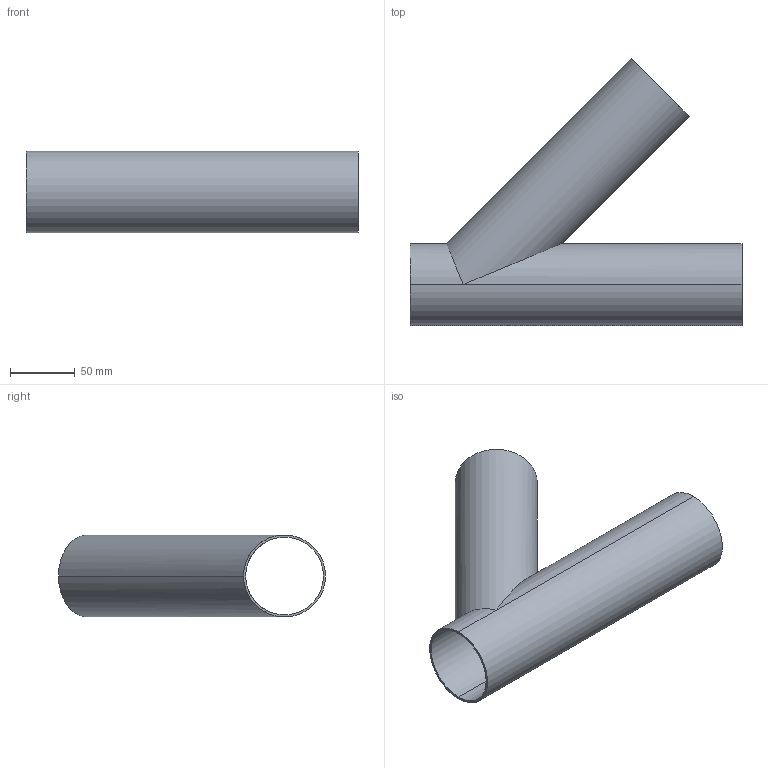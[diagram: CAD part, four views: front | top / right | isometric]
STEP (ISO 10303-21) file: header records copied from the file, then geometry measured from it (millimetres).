
FILE_DESCRIPTION (( 'STEP AP203' ), '1' );
FILE_NAME ('E28WA2.5.STEP', '2018-05-04T12:44:19', ( 'vneprd' ), ( 'Microsoft' ), 'SwSTEP 2.0', 'SolidWorks 2014', '' );
FILE_SCHEMA (( 'CONFIG_CONTROL_DESIGN' ));
Length unit declared in the file: inch
Products named in the file (1): E28WA2.5
Bounding box: 257.18 x 206.87 x 63.5 mm (x, y, z)
Volume: 152415.1 mm3; surface area: 164389.8 mm2
Topology: 1 solids, 1 shells, 13 faces, 31 edges, 20 vertices
Faces by surface type: cylinder 9, plane 4
Entity records: 470 total; most frequent: CARTESIAN_POINT 86, DIRECTION 66, ORIENTED_EDGE 62, EDGE_CURVE 31, AXIS2_PLACEMENT_3D 28, VERTEX_POINT 20, EDGE_LOOP 17, CIRCLE 14
